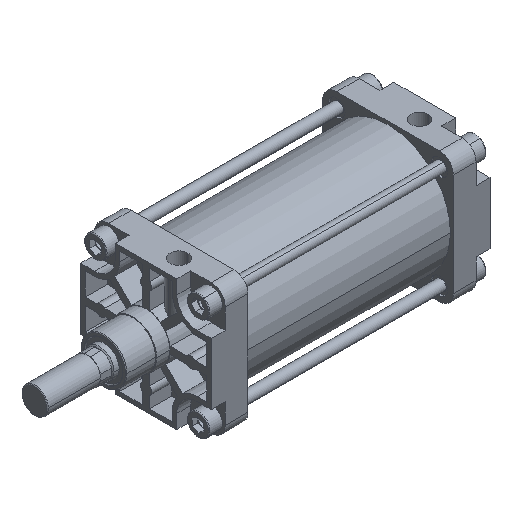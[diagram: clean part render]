
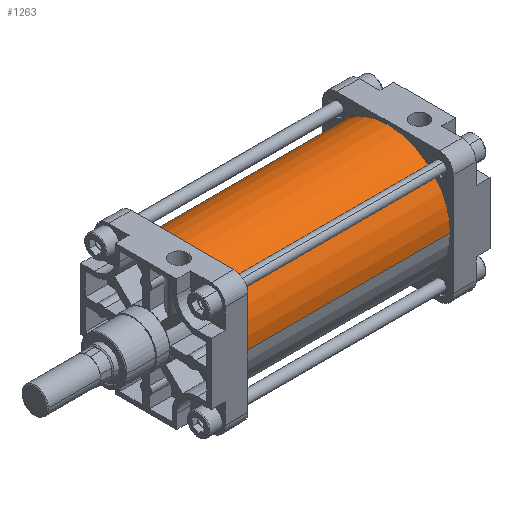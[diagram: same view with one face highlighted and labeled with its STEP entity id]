
A CAD part, isometric view. The second image highlights one B-rep face of the part: STEP entity #1263.
In plain terms, the highlighted cylindrical face has radius 85 mm (diameter 170 mm), a partial arc.
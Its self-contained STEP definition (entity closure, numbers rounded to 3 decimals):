
#853=CARTESIAN_POINT('Axis2P3D Location',(0.,0.,0.)) ;
#857=CARTESIAN_POINT('Vertex',(0.,85.,0.)) ;
#859=CARTESIAN_POINT('Vertex',(0.,-85.,0.)) ;
#1233=CARTESIAN_POINT('Axis2P3D Location',(140.,0.,0.)) ;
#1238=CARTESIAN_POINT('Line Origine',(140.,85.,0.)) ;
#1242=CARTESIAN_POINT('Vertex',(280.,85.,0.)) ;
#1245=CARTESIAN_POINT('Line Origine',(140.,-85.,0.)) ;
#1249=CARTESIAN_POINT('Vertex',(280.,-85.,0.)) ;
#1252=CARTESIAN_POINT('Axis2P3D Location',(280.,0.,0.)) ;
#854=DIRECTION('Axis2P3D Direction',(1.,0.,0.)) ;
#1234=DIRECTION('Axis2P3D Direction',(1.,0.,0.)) ;
#1235=DIRECTION('Axis2P3D XDirection',(0.,1.,0.)) ;
#1239=DIRECTION('Vector Direction',(1.,0.,0.)) ;
#1246=DIRECTION('Vector Direction',(1.,0.,0.)) ;
#1253=DIRECTION('Axis2P3D Direction',(1.,0.,0.)) ;
#855=AXIS2_PLACEMENT_3D('Circle Axis2P3D',#853,#854,$) ;
#1236=AXIS2_PLACEMENT_3D('Cylinder Axis2P3D',#1233,#1234,#1235) ;
#1254=AXIS2_PLACEMENT_3D('Circle Axis2P3D',#1252,#1253,$) ;
#1258=ORIENTED_EDGE('',*,*,#1244,.F.) ;
#1259=ORIENTED_EDGE('',*,*,#861,.T.) ;
#1260=ORIENTED_EDGE('',*,*,#1251,.T.) ;
#1261=ORIENTED_EDGE('',*,*,#1256,.F.) ;
#1240=VECTOR('Line Direction',#1239,1.) ;
#1247=VECTOR('Line Direction',#1246,1.) ;
#1263=ADVANCED_FACE('PartBody',(#1262),#1237,.T.) ;
#856=CIRCLE('generated circle',#855,85.) ;
#1255=CIRCLE('generated circle',#1254,85.) ;
#1237=CYLINDRICAL_SURFACE('generated cylinder',#1236,85.) ;
#861=EDGE_CURVE('',#858,#860,#856,.T.) ;
#1244=EDGE_CURVE('',#858,#1243,#1241,.T.) ;
#1251=EDGE_CURVE('',#860,#1250,#1248,.T.) ;
#1256=EDGE_CURVE('',#1243,#1250,#1255,.T.) ;
#1257=EDGE_LOOP('',(#1258,#1259,#1260,#1261)) ;
#1262=FACE_OUTER_BOUND('',#1257,.T.) ;
#1241=LINE('Line',#1238,#1240) ;
#1248=LINE('Line',#1245,#1247) ;
#858=VERTEX_POINT('',#857) ;
#860=VERTEX_POINT('',#859) ;
#1243=VERTEX_POINT('',#1242) ;
#1250=VERTEX_POINT('',#1249) ;
